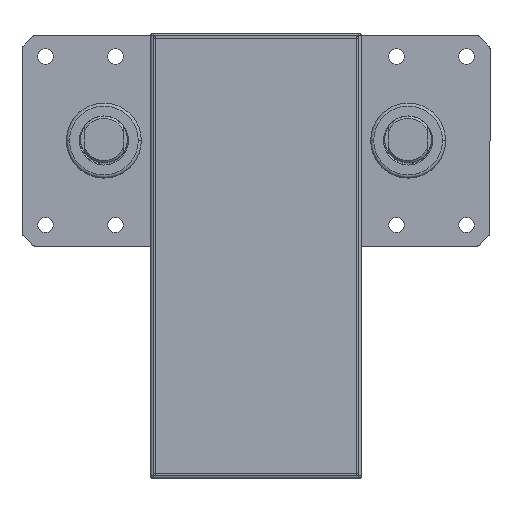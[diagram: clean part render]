
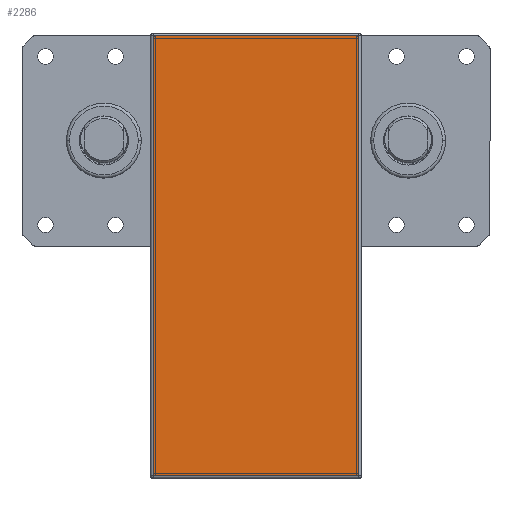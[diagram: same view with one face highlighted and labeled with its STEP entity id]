
A CAD part, top view. The second image highlights one B-rep face of the part: STEP entity #2286.
In plain terms, the highlighted planar face has unit normal (0, 0, 1).
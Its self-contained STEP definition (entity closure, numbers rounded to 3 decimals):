
#1915 = DIRECTION ( 'NONE',  ( 1., 0., 0. ) ) ;
#2286 = ADVANCED_FACE ( 'NONE', ( #19119 ), #35858, .T. ) ;
#8438 = EDGE_LOOP ( 'NONE', ( #27492, #18554, #15711, #30392 ) ) ;
#9046 = VECTOR ( 'NONE', #13104, 1000. ) ;
#13068 = LINE ( 'NONE', #27187, #38558 ) ;
#13104 = DIRECTION ( 'NONE',  ( 0., 1., 0. ) ) ;
#14825 = VECTOR ( 'NONE', #1915, 1000. ) ;
#15711 = ORIENTED_EDGE ( 'NONE', *, *, #18891, .T. ) ;
#15933 = DIRECTION ( 'NONE',  ( 0., 0., 1. ) ) ;
#17163 = LINE ( 'NONE', #19354, #34862 ) ;
#18099 = VERTEX_POINT ( 'NONE', #35933 ) ;
#18554 = ORIENTED_EDGE ( 'NONE', *, *, #40499, .T. ) ;
#18871 = VERTEX_POINT ( 'NONE', #19530 ) ;
#18891 = EDGE_CURVE ( 'NONE', #42447, #41509, #18975, .T. ) ;
#18975 = LINE ( 'NONE', #42893, #9046 ) ;
#19119 = FACE_OUTER_BOUND ( 'NONE', #8438, .T. ) ;
#19354 = CARTESIAN_POINT ( 'NONE',  ( -44., 44., 421. ) ) ;
#19530 = CARTESIAN_POINT ( 'NONE',  ( -44., 44., 421. ) ) ;
#19725 = CARTESIAN_POINT ( 'NONE',  ( 44., -144., 421. ) ) ;
#21260 = EDGE_CURVE ( 'NONE', #18871, #18099, #13068, .T. ) ;
#22511 = CARTESIAN_POINT ( 'NONE',  ( -44., -144., 421. ) ) ;
#27187 = CARTESIAN_POINT ( 'NONE',  ( -44., -144., 421. ) ) ;
#27492 = ORIENTED_EDGE ( 'NONE', *, *, #21260, .T. ) ;
#30392 = ORIENTED_EDGE ( 'NONE', *, *, #40009, .T. ) ;
#33865 = DIRECTION ( 'NONE',  ( 0., -1., 0. ) ) ;
#34761 = CARTESIAN_POINT ( 'NONE',  ( 44., 44., 421. ) ) ;
#34862 = VECTOR ( 'NONE', #42571, 1000. ) ;
#35858 = PLANE ( 'NONE',  #37884 ) ;
#35933 = CARTESIAN_POINT ( 'NONE',  ( -44., -144., 421. ) ) ;
#37884 = AXIS2_PLACEMENT_3D ( 'NONE', #22511, #15933, #39189 ) ;
#38558 = VECTOR ( 'NONE', #33865, 1000. ) ;
#39189 = DIRECTION ( 'NONE',  ( 1., 0., 0. ) ) ;
#40009 = EDGE_CURVE ( 'NONE', #41509, #18871, #17163, .T. ) ;
#40499 = EDGE_CURVE ( 'NONE', #18099, #42447, #41330, .T. ) ;
#41330 = LINE ( 'NONE', #41807, #14825 ) ;
#41509 = VERTEX_POINT ( 'NONE', #34761 ) ;
#41807 = CARTESIAN_POINT ( 'NONE',  ( 44., -144., 421. ) ) ;
#42447 = VERTEX_POINT ( 'NONE', #19725 ) ;
#42571 = DIRECTION ( 'NONE',  ( -1., 0., 0. ) ) ;
#42893 = CARTESIAN_POINT ( 'NONE',  ( 44., 44., 421. ) ) ;
